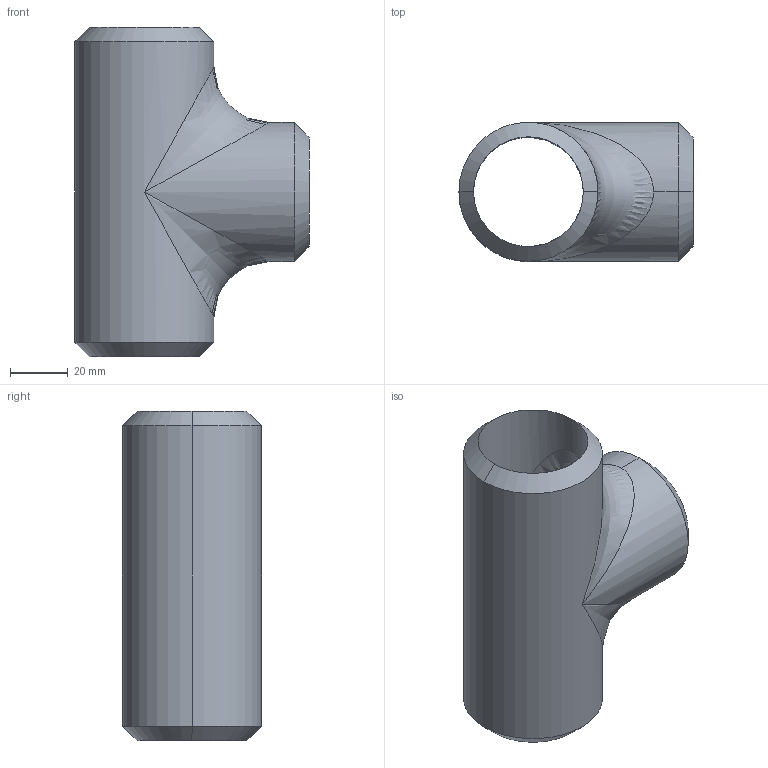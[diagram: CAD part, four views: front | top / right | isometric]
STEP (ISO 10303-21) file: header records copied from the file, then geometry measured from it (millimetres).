
FILE_DESCRIPTION (( 'STEP AP203' ), '1' );
FILE_NAME ('3D_R266_1 1-2x80S_173445145.STEP', '2024-08-23T10:57:16', ( '' ), ( '' ), 'SwSTEP 2.0', 'SolidWorks 2024', '' );
FILE_SCHEMA (( 'CONFIG_CONTROL_DESIGN' ));
Length unit declared in the file: millimetre
Products named in the file (1): 3D_R266_1 1-2x80S_173445145
Bounding box: 81.35 x 48.3 x 114.4 mm (x, y, z)
Volume: 92812.2 mm3; surface area: 39248.7 mm2
Topology: 1 solids, 1 shells, 21 faces, 58 edges, 30 vertices
Faces by surface type: cylinder 8, cone 6, bspline 4, plane 3
Entity records: 1315 total; most frequent: CARTESIAN_POINT 794, ORIENTED_EDGE 100, DIRECTION 88, EDGE_CURVE 50, AXIS2_PLACEMENT_3D 36, VERTEX_POINT 30, EDGE_LOOP 24, ADVANCED_FACE 21
